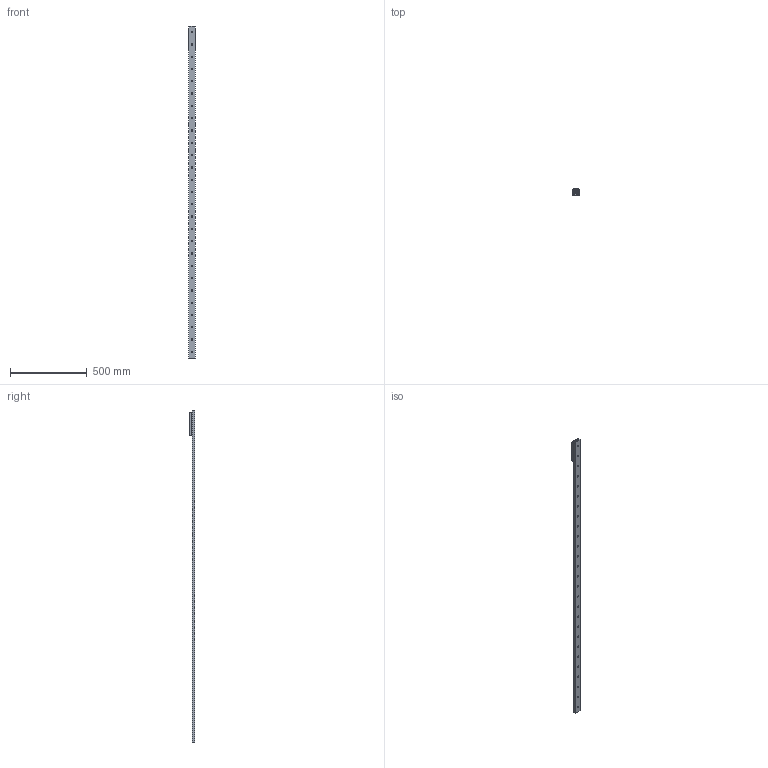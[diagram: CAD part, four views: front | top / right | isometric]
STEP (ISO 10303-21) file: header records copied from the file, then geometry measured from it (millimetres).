
FILE_DESCRIPTION( ( 'STEP AP214' ), '1' );
FILE_NAME( 'p:/temp/worker_14/temp/exporttempdir_3260_38_yBqEQ/format_1/TGV-02160_1_RV43G-3.stp', '2021-05-14T19:15:44', ( 'License CC BY-ND 4.0' ), ( 'CADENAS' ), ' ', 'PARTsolutions', ' ' );
FILE_SCHEMA( ( 'AUTOMOTIVE_DESIGN { 1 0 10303 214 1 1 1 1 }' ) );
Length unit declared in the file: millimetre
Products named in the file (6): TGV-02160/1/RV43G-3; _TGV43-2160-(3-1); _RVG43-3-slider; _RGNV43R; _RGAV43R; _WR43G-01
Assembly tree (7 placements, depth 2):
  TGV-02160/1/RV43G-3
    _TGV43-2160-(3-1)
    _RVG43-3-slider
    _RGNV43R  x2
    _RGAV43R
    _WR43G-01  x2
Bounding box: 43 x 37 x 2160 mm (x, y, z)
Volume: 911648.9 mm3; surface area: 366790.2 mm2
Topology: 7 solids, 7 shells, 1095 faces, 2859 edges, 1860 vertices
Faces by surface type: plane 663, cylinder 323, cone 66, bspline 34, torus 9
Full cylindrical faces by diameter (mm): 1.76 x4, 3 x8, 6 x4, 6.647 x4, 6.8 x3, 8 x3, 8.5 x27, 11 x11, 15 x6, 15.5 x1, 18.98 x2, 19 x1, 31.4 x6
Entity records: 26383 total; most frequent: CARTESIAN_POINT 4142, DIRECTION 3537, ORIENTED_EDGE 3226, EDGE_CURVE 1613, AXIS2_PLACEMENT_3D 1365, VERTEX_POINT 1132, EDGE_LOOP 959, LINE 807
